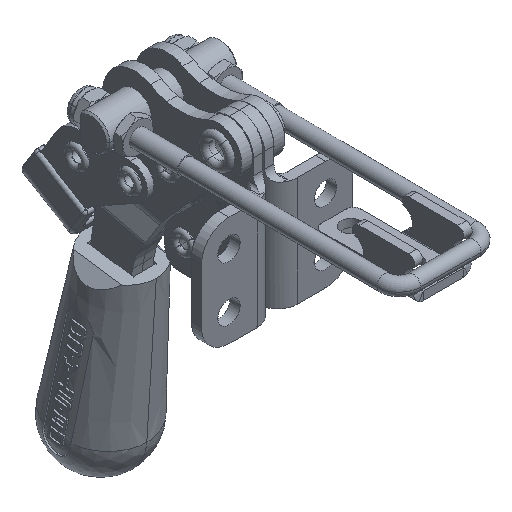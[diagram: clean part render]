
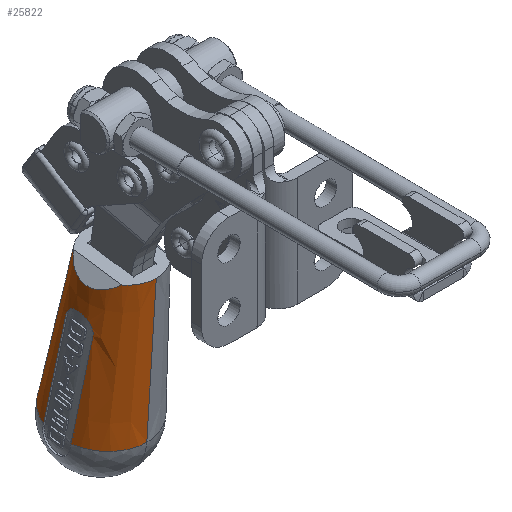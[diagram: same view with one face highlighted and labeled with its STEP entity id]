
A CAD part, isometric view. The second image highlights one B-rep face of the part: STEP entity #25822.
In plain terms, the highlighted conical face has half-angle 4.49 degrees and reference radius 9.334 mm.
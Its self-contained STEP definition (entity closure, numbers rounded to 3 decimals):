
#18853=CARTESIAN_POINT('',(0.,0.,0.));
#18854=DIRECTION('',(0.,-1.,0.));
#18855=DIRECTION('',(0.,0.,1.));
#18856=AXIS2_PLACEMENT_3D('',#18853,#18854,#18855);
#18884=CARTESIAN_POINT('',(0.,0.,0.));
#18885=DIRECTION('',(0.,-1.,0.));
#18886=DIRECTION('',(-0.712,0.,-0.702));
#18887=AXIS2_PLACEMENT_3D('',#18884,#18885,#18886);
#18913=DIRECTION('',(0.,-0.997,0.078));
#18914=VECTOR('',#18913,34.067);
#18915=CARTESIAN_POINT('',(0.,33.962,-10.667));
#18916=LINE('',#18915,#18914);
#18920=CARTESIAN_POINT('',(-5.696,0.,
-5.617));
#18921=CARTESIAN_POINT('',(-6.215,0.519,
-5.149));
#18922=CARTESIAN_POINT('',(-6.985,1.289,
-4.213));
#18923=CARTESIAN_POINT('',(-7.709,2.012,
-2.809));
#18924=CARTESIAN_POINT('',(-8.11,2.414,
-1.404));
#18925=CARTESIAN_POINT('',(-8.24,2.543,0.));
#18926=CARTESIAN_POINT('',(-8.11,2.414,
1.404));
#18927=CARTESIAN_POINT('',(-7.709,2.012,
2.809));
#18928=CARTESIAN_POINT('',(-6.985,1.289,
4.213));
#18929=CARTESIAN_POINT('',(-6.215,0.519,
5.149));
#18930=CARTESIAN_POINT('',(-5.696,0.,
5.617));
#18950=DIRECTION('',(0.,-0.997,-0.078));
#18951=VECTOR('',#18950,34.067);
#18952=CARTESIAN_POINT('',(0.,33.962,10.667));
#18953=LINE('',#18952,#18951);
#19005=CARTESIAN_POINT('',(0.,33.962,0.));
#19006=DIRECTION('',(0.,1.,0.));
#19007=DIRECTION('',(-0.954,0.,0.3));
#19008=AXIS2_PLACEMENT_3D('',#19005,#19006,#19007);
#19021=CARTESIAN_POINT('',(0.,33.962,0.));
#19022=DIRECTION('',(0.,1.,0.));
#19023=DIRECTION('',(0.,0.,-1.));
#19024=AXIS2_PLACEMENT_3D('',#19021,#19022,#19023);
#19053=CARTESIAN_POINT('',(-8.306,11.478,3.2));
#19054=CARTESIAN_POINT('',(-8.512,13.918,3.2));
#19055=CARTESIAN_POINT('',(-8.924,18.838,3.2));
#19056=CARTESIAN_POINT('',(-9.547,26.332,3.2));
#19057=CARTESIAN_POINT('',(-9.965,31.406,3.2));
#19058=CARTESIAN_POINT('',(-10.176,33.962,3.2));
#19118=CARTESIAN_POINT('',(-8.647,8.241,
0.));
#19119=CARTESIAN_POINT('',(-8.647,8.241,
0.202));
#19120=CARTESIAN_POINT('',(-8.636,8.28,
0.61));
#19121=CARTESIAN_POINT('',(-8.585,8.466,1.22));
#19122=CARTESIAN_POINT('',(-8.51,8.77,
1.78));
#19123=CARTESIAN_POINT('',(-8.423,9.185,
2.279));
#19124=CARTESIAN_POINT('',(-8.342,9.686,
2.682));
#19125=CARTESIAN_POINT('',(-8.286,10.258,
2.982));
#19126=CARTESIAN_POINT('',(-8.27,10.87,
3.162));
#19127=CARTESIAN_POINT('',(-8.289,11.278,3.2));
#19128=CARTESIAN_POINT('',(-8.306,11.478,3.2));
#19868=CARTESIAN_POINT('',(-10.176,33.962,-3.2));
#19869=CARTESIAN_POINT('',(-9.965,31.406,-3.2));
#19870=CARTESIAN_POINT('',(-9.547,26.332,-3.2));
#19871=CARTESIAN_POINT('',(-8.924,18.838,-3.2));
#19872=CARTESIAN_POINT('',(-8.512,13.918,-3.2));
#19873=CARTESIAN_POINT('',(-8.306,11.478,-3.2));
#19918=CARTESIAN_POINT('',(-8.306,11.478,-3.2));
#19919=CARTESIAN_POINT('',(-8.289,11.278,-3.2));
#19920=CARTESIAN_POINT('',(-8.27,10.87,
-3.162));
#19921=CARTESIAN_POINT('',(-8.286,10.257,
-2.982));
#19922=CARTESIAN_POINT('',(-8.342,9.688,
-2.683));
#19923=CARTESIAN_POINT('',(-8.422,9.185,
-2.279));
#19924=CARTESIAN_POINT('',(-8.51,8.77,
-1.782));
#19925=CARTESIAN_POINT('',(-8.585,8.466,
-1.22));
#19926=CARTESIAN_POINT('',(-8.636,8.28,
-0.61));
#19927=CARTESIAN_POINT('',(-8.647,8.241,
-0.202));
#19928=CARTESIAN_POINT('',(-8.647,8.241,
0.));
#25048=CARTESIAN_POINT('',(0.,33.962,-10.667));
#25050=VERTEX_POINT('',#25048);
#25102=CARTESIAN_POINT('',(-5.696,0.,-5.617));
#25103=CARTESIAN_POINT('',(-5.696,0.,5.617));
#25104=VERTEX_POINT('',#25102);
#25105=VERTEX_POINT('',#25103);
#25214=CARTESIAN_POINT('',(0.,33.962,10.667));
#25215=VERTEX_POINT('',#25214);
#25269=CARTESIAN_POINT('',(0.,0.,8.));
#25270=VERTEX_POINT('',#25269);
#25294=CARTESIAN_POINT('',(0.,0.,-8.));
#25295=VERTEX_POINT('',#25294);
#25305=CARTESIAN_POINT('',(-8.306,11.478,3.2));
#25307=VERTEX_POINT('',#25305);
#25348=VERTEX_POINT('',#19868);
#25349=VERTEX_POINT('',#19873);
#25366=VERTEX_POINT('',#19118);
#25542=CARTESIAN_POINT('',(-10.176,33.962,3.2));
#25543=VERTEX_POINT('',#25542);
#25796=CARTESIAN_POINT('',(0.,16.981,0.));
#25797=DIRECTION('',(0.,1.,0.));
#25798=DIRECTION('',(0.,0.,1.));
#25799=AXIS2_PLACEMENT_3D('',#25796,#25797,#25798);
#25800=CONICAL_SURFACE('',#25799,9.334,4.49);
#25802=ORIENTED_EDGE('',*,*,#25801,.F.);
#25804=ORIENTED_EDGE('',*,*,#25803,.T.);
#25806=ORIENTED_EDGE('',*,*,#25805,.T.);
#25808=ORIENTED_EDGE('',*,*,#25807,.T.);
#25810=ORIENTED_EDGE('',*,*,#25809,.T.);
#25812=ORIENTED_EDGE('',*,*,#25811,.T.);
#25814=ORIENTED_EDGE('',*,*,#25813,.T.);
#25816=ORIENTED_EDGE('',*,*,#25815,.T.);
#25817=ORIENTED_EDGE('',*,*,#25764,.T.);
#25818=ORIENTED_EDGE('',*,*,#25790,.F.);
#25819=ORIENTED_EDGE('',*,*,#25772,.T.);
#25820=EDGE_LOOP('',(#25802,#25804,#25806,#25808,#25810,#25812,#25814,#25816,
#25817,#25818,#25819));
#25821=FACE_OUTER_BOUND('',#25820,.F.);
#18857=CIRCLE('',#18856,8.);
#18888=CIRCLE('',#18887,8.);
#18931=B_SPLINE_CURVE_WITH_KNOTS('',3,(#18920,#18921,#18922,#18923,#18924,
#18925,#18926,#18927,#18928,#18929,#18930),.UNSPECIFIED.,.F.,.F.,(4,1,1,1,1,1,1,
1,4),(0.,0.125,0.25,0.375,0.5,0.625,0.75,0.875,1.),
.UNSPECIFIED.);
#19009=CIRCLE('',#19008,10.667);
#19025=CIRCLE('',#19024,10.667);
#19059=B_SPLINE_CURVE_WITH_KNOTS('',3,(#19053,#19054,#19055,#19056,#19057,
#19058),.UNSPECIFIED.,.F.,.F.,(4,1,1,4),(0.,0.333,
0.667,1.),.UNSPECIFIED.);
#19129=B_SPLINE_CURVE_WITH_KNOTS('',3,(#19118,#19119,#19120,#19121,#19122,
#19123,#19124,#19125,#19126,#19127,#19128),.UNSPECIFIED.,.F.,.F.,(4,1,1,1,1,1,1,
1,4),(0.,0.125,0.25,0.375,0.5,0.625,0.75,0.875,1.),
.UNSPECIFIED.);
#19874=B_SPLINE_CURVE_WITH_KNOTS('',3,(#19868,#19869,#19870,#19871,#19872,
#19873),.UNSPECIFIED.,.F.,.F.,(4,1,1,4),(0.,0.333,
0.667,1.),.UNSPECIFIED.);
#19929=B_SPLINE_CURVE_WITH_KNOTS('',3,(#19918,#19919,#19920,#19921,#19922,
#19923,#19924,#19925,#19926,#19927,#19928),.UNSPECIFIED.,.F.,.F.,(4,1,1,1,1,1,1,
1,4),(0.,0.125,0.25,0.375,0.5,0.625,0.75,0.875,1.),
.UNSPECIFIED.);
#25764=EDGE_CURVE('',#25270,#25105,#18857,.T.);
#25772=EDGE_CURVE('',#25104,#25295,#18888,.T.);
#25790=EDGE_CURVE('',#25104,#25105,#18931,.T.);
#25801=EDGE_CURVE('',#25050,#25295,#18916,.T.);
#25803=EDGE_CURVE('',#25050,#25348,#19025,.T.);
#25805=EDGE_CURVE('',#25348,#25349,#19874,.T.);
#25807=EDGE_CURVE('',#25349,#25366,#19929,.T.);
#25809=EDGE_CURVE('',#25366,#25307,#19129,.T.);
#25811=EDGE_CURVE('',#25307,#25543,#19059,.T.);
#25813=EDGE_CURVE('',#25543,#25215,#19009,.T.);
#25815=EDGE_CURVE('',#25215,#25270,#18953,.T.);
#25822=ADVANCED_FACE('',(#25821),#25800,.T.);
